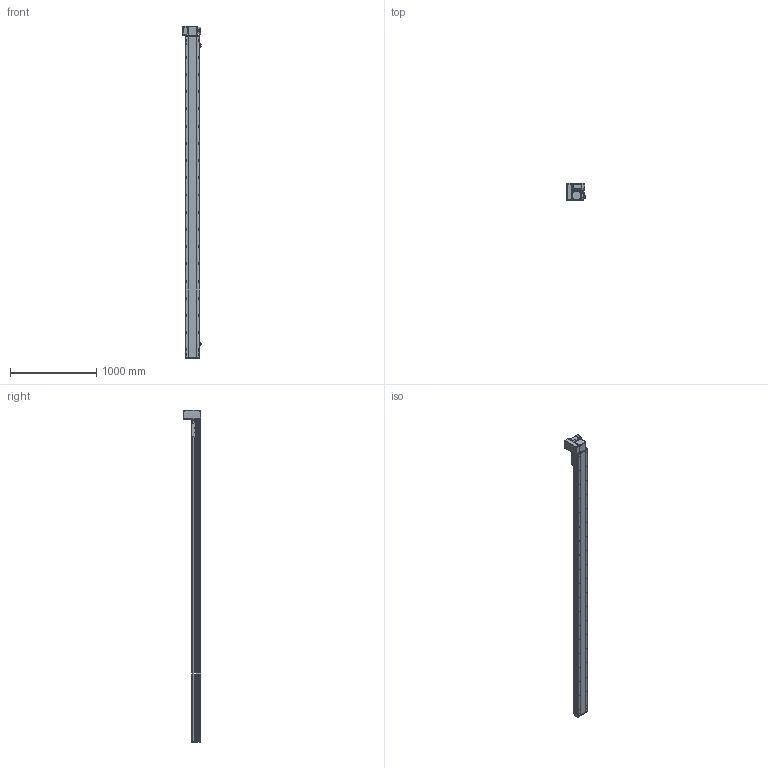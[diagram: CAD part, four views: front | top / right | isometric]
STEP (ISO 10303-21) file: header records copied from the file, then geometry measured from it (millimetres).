
FILE_DESCRIPTION (( 'STEP AP214' ), '1' );
FILE_NAME ('RTB17S-XX-3450-LW-M75-C4.STEP', '2025-12-12T01:22:40', ( '' ), ( '' ), 'SwSTEP 2.0', 'SolidWorks 2018', '' );
FILE_SCHEMA (( 'AUTOMOTIVE_DESIGN' ));
Length unit declared in the file: millimetre
Products named in the file (15): RTB17-R-011菁釱^RTB17S-XX-XX-LW-M75-C4; RTB22S-GY-017P^RTB17S-LW-々湍釱蚾饜-750W_RTB17S-XX-XX-LW-M75-C4; RTB17S-賑釱^RTB17S-XX-XX-LW-M75-C4; RTB17S-XX-3450-LW-M75-C4; RTB17S-LW-々湍釱蚾饜-750W^RTB17S-XX-XX-LW-M75-C4; RTB22S-GY-005P^RTB17S-LW-々湍釱蚾饜-750W_RTB17S-XX-XX-LW-M75-C4; RTB17S-L-007奻裔^RTB17S-XX-XX-LW-M75-C4; RTB17S-L-001-耜醱啣^RTB17S-XX-XX-LW-M75-C4; EE672^RTB17S-XX-XX-LW-M75-C4; RTB17S-L-004-賑釱^RTB17S-賑釱_RTB17S-XX-XX-LW-M75-C4; RTH13-BL-012覜茼え俋离^RTB17S-賑釱_RTB17S-XX-XX-LW-M75-C4; RTB22S-GY-018P^RTB17S-LW-々湍釱蚾饜-750W_RTB17S-XX-XX-LW-M75-C4; RTB17S-L-014-T20-P75--々湍釱^RTB17S-LW-々湍釱蚾饜-750W_RTB17S-XX-XX-LW-M75-C4; RTB22S-GY-008-M75--萇儂啣^RTB17S-LW-々湍釱蚾饜-750W_RTB17S-XX-XX-LW-M75-C4; 750W萇儂^RTB17S-XX-XX-LW-M75-C4
Assembly tree (17 placements, depth 3):
  RTB17S-XX-3450-LW-M75-C4
    RTB17-R-011菁釱^RTB17S-XX-XX-LW-M75-C4
    EE672^RTB17S-XX-XX-LW-M75-C4  x3
    RTB17S-L-001-耜醱啣^RTB17S-XX-XX-LW-M75-C4
    RTB17S-賑釱^RTB17S-XX-XX-LW-M75-C4
      RTB17S-L-004-賑釱^RTB17S-賑釱_RTB17S-XX-XX-LW-M75-C4
      RTH13-BL-012覜茼え俋离^RTB17S-賑釱_RTB17S-XX-XX-LW-M75-C4
    RTB17S-L-007奻裔^RTB17S-XX-XX-LW-M75-C4
    750W萇儂^RTB17S-XX-XX-LW-M75-C4
    RTB17S-LW-々湍釱蚾饜-750W^RTB17S-XX-XX-LW-M75-C4
      RTB17S-L-014-T20-P75--々湍釱^RTB17S-LW-々湍釱蚾饜-750W_RTB17S-XX-XX-LW-M75-C4
      RTB22S-GY-005P^RTB17S-LW-々湍釱蚾饜-750W_RTB17S-XX-XX-LW-M75-C4
      RTB22S-GY-017P^RTB17S-LW-々湍釱蚾饜-750W_RTB17S-XX-XX-LW-M75-C4  x2
      RTB22S-GY-008-M75--萇儂啣^RTB17S-LW-々湍釱蚾饜-750W_RTB17S-XX-XX-LW-M75-C4
      RTB22S-GY-018P^RTB17S-LW-々湍釱蚾饜-750W_RTB17S-XX-XX-LW-M75-C4
Bounding box: 210.4 x 201.5 x 3857.5 mm (x, y, z)
Volume: 27511236 mm3; surface area: 5082124.3 mm2
Topology: 17 solids, 17 shells, 2297 faces, 6484 edges, 4202 vertices
Faces by surface type: plane 996, cylinder 885, bspline 294, cone 110, sphere 8, torus 4
Entity records: 68086 total; most frequent: CARTESIAN_POINT 20348, ORIENTED_EDGE 9812, DIRECTION 9032, EDGE_CURVE 4906, AXIS2_PLACEMENT_3D 3222, VERTEX_POINT 3206, VECTOR 2588, LINE 2588
